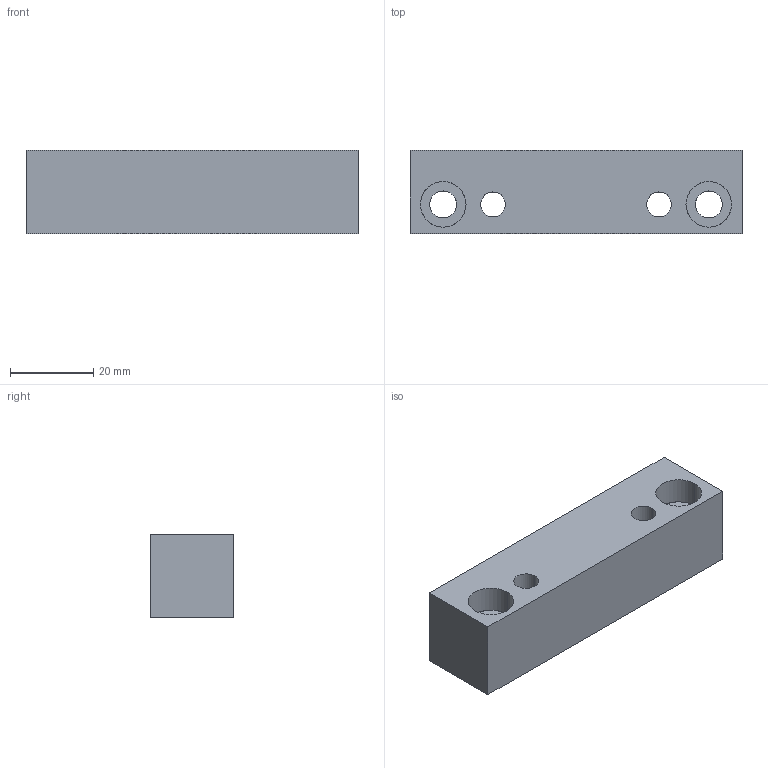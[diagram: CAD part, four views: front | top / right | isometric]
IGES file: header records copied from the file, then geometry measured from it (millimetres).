
Start section: START RECORD GO HERE.
Global section: file name: G40520080.igs; native system: DASSAULT SYSTEMES CATIA V5 R20 - www.3ds.com; preprocessor: CATIA Version 5 Release 20 ; author: r.borello; organization: CFTORINO; date: 20190624.150058; units: millimetre
Bounding box: 80 x 20 x 20 mm (x, y, z)
Surface area: 11322.2 mm2 (no closed solid volume)
Topology: 0 solids, 0 shells, 310 faces, 1332 edges, 1192 vertices
Faces by surface type: revolution 272, plane 38
